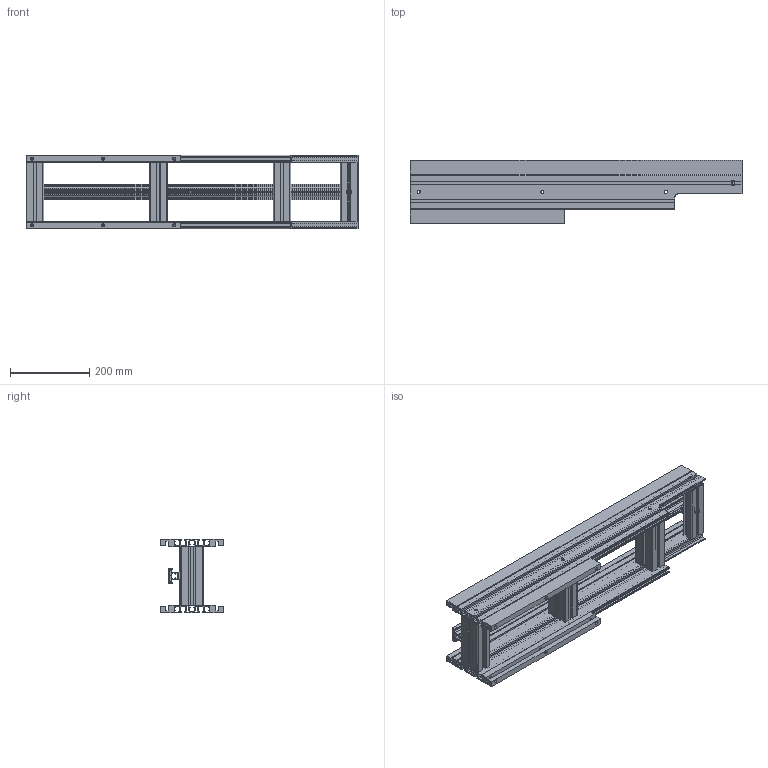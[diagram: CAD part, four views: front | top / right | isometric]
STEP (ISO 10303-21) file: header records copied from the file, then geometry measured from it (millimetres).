
FILE_DESCRIPTION (( 'STEP AP203' ), '1' );
FILE_NAME ('3000.152.103.STEP', '2018-03-09T16:28:02', ( '' ), ( '' ), 'SwSTEP 2.0', 'SolidWorks 2016', '' );
FILE_SCHEMA (( 'CONFIG_CONTROL_DESIGN' ));
Length unit declared in the file: millimetre
Products named in the file (1): 3000.152.103
Bounding box: 840 x 160 x 187 mm (x, y, z)
Volume: 3540356.3 mm3; surface area: 2015789.7 mm2
Topology: 17 solids, 17 shells, 1035 faces, 2969 edges, 1978 vertices
Faces by surface type: plane 618, cylinder 407, cone 10
Entity records: 34710 total; most frequent: CARTESIAN_POINT 6490, ORIENTED_EDGE 5938, DIRECTION 5821, EDGE_CURVE 2969, LINE 2099, VECTOR 2099, VERTEX_POINT 1978, AXIS2_PLACEMENT_3D 1861
